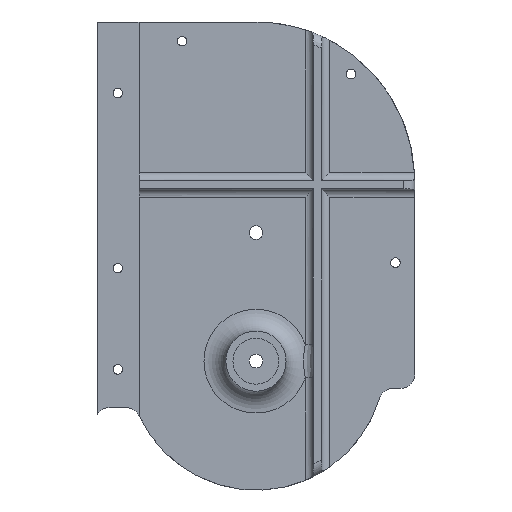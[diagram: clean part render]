
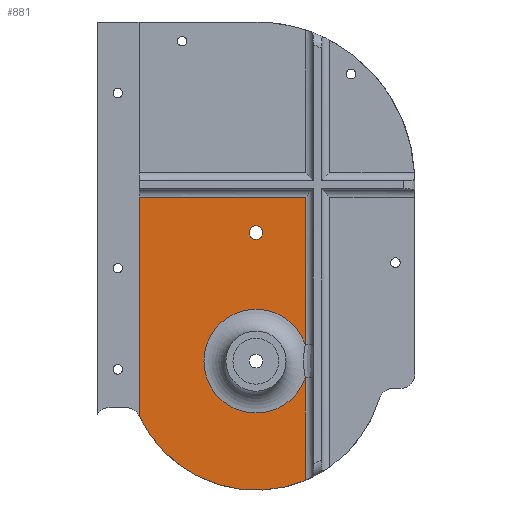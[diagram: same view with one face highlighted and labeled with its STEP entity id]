
A CAD part, front view. The second image highlights one B-rep face of the part: STEP entity #881.
In plain terms, the highlighted planar face has unit normal (0, -1, 0).
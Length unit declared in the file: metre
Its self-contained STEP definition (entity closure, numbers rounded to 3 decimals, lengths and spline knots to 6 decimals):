
#64=LINE('',#1333,#126);
#65=LINE('',#1336,#127);
#66=LINE('',#1340,#128);
#67=LINE('',#1344,#129);
#126=VECTOR('',#1064,1.);
#127=VECTOR('',#1065,1.);
#128=VECTOR('',#1068,1.);
#129=VECTOR('',#1071,1.);
#190=ORIENTED_EDGE('',*,*,#442,.F.);
#191=ORIENTED_EDGE('',*,*,#443,.T.);
#192=ORIENTED_EDGE('',*,*,#444,.T.);
#193=ORIENTED_EDGE('',*,*,#445,.F.);
#194=ORIENTED_EDGE('',*,*,#446,.T.);
#195=ORIENTED_EDGE('',*,*,#447,.T.);
#196=ORIENTED_EDGE('',*,*,#448,.T.);
#442=EDGE_CURVE('',#568,#568,#651,.T.);
#443=EDGE_CURVE('',#569,#570,#64,.T.);
#444=EDGE_CURVE('',#570,#571,#65,.T.);
#445=EDGE_CURVE('',#572,#571,#652,.T.);
#446=EDGE_CURVE('',#572,#573,#66,.F.);
#447=EDGE_CURVE('',#573,#574,#653,.F.);
#448=EDGE_CURVE('',#574,#569,#67,.F.);
#568=VERTEX_POINT('',#1332);
#569=VERTEX_POINT('',#1334);
#570=VERTEX_POINT('',#1335);
#571=VERTEX_POINT('',#1337);
#572=VERTEX_POINT('',#1339);
#573=VERTEX_POINT('',#1341);
#574=VERTEX_POINT('',#1343);
#651=CIRCLE('',#950,0.0025);
#652=CIRCLE('',#951,0.04717);
#653=CIRCLE('',#952,0.019);
#697=EDGE_LOOP('',(#190));
#698=EDGE_LOOP('',(#191,#192,#193,#194,#195,#196));
#778=FACE_BOUND('',#697,.T.);
#779=FACE_BOUND('',#698,.T.);
#858=PLANE('',#949);
#881=ADVANCED_FACE('',(#778,#779),#858,.T.);
#949=AXIS2_PLACEMENT_3D('',#1330,#1060,#1061);
#950=AXIS2_PLACEMENT_3D('',#1331,#1062,#1063);
#951=AXIS2_PLACEMENT_3D('',#1338,#1066,#1067);
#952=AXIS2_PLACEMENT_3D('',#1342,#1069,#1070);
#1060=DIRECTION('',(0.,-1.,0.));
#1061=DIRECTION('',(1.,0.,0.));
#1062=DIRECTION('',(0.,-1.,0.));
#1063=DIRECTION('',(-1.,0.,0.));
#1064=DIRECTION('',(-1.,0.,0.));
#1065=DIRECTION('',(0.,0.,-1.));
#1066=DIRECTION('',(0.,1.,0.));
#1067=DIRECTION('',(1.,0.,0.));
#1068=DIRECTION('',(0.,0.,-1.));
#1069=DIRECTION('',(0.,-1.,0.));
#1070=DIRECTION('',(-1.,0.,0.));
#1071=DIRECTION('',(0.,0.,-1.));
#1330=CARTESIAN_POINT('',(-0.0505,-0.032,-0.055585));
#1331=CARTESIAN_POINT('',(0.,-0.032,-0.047));
#1332=CARTESIAN_POINT('',(-0.0025,-0.032,-0.047));
#1333=CARTESIAN_POINT('',(-0.122,-0.032,-0.034));
#1334=CARTESIAN_POINT('',(0.018,-0.032,-0.034));
#1335=CARTESIAN_POINT('',(-0.04275,-0.032,-0.034));
#1336=CARTESIAN_POINT('',(-0.04275,-0.032,-0.055585));
#1337=CARTESIAN_POINT('',(-0.04275,-0.032,-0.113936));
#1338=CARTESIAN_POINT('',(0.,-0.032,-0.094));
#1339=CARTESIAN_POINT('',(0.018,-0.032,-0.1376));
#1340=CARTESIAN_POINT('',(0.018,-0.032,-0.055585));
#1341=CARTESIAN_POINT('',(0.018,-0.032,-0.100083));
#1342=CARTESIAN_POINT('',(0.,-0.032,-0.094));
#1343=CARTESIAN_POINT('',(0.018,-0.032,-0.087917));
#1344=CARTESIAN_POINT('',(0.018,-0.032,-0.055585));
